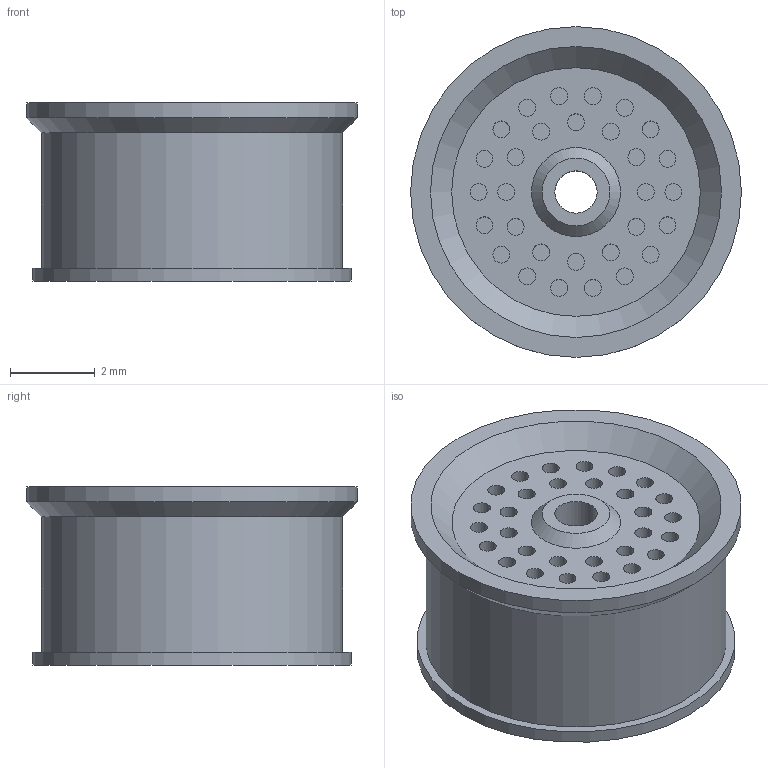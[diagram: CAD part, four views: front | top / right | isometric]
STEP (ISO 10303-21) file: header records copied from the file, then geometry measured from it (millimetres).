
FILE_DESCRIPTION(('Open CASCADE Model'),'2;1');
FILE_NAME('Open CASCADE Shape Model','2026-10-09T16:33:00',('Author'),( 'Open CASCADE'),'Open CASCADE STEP processor 8.0','build123d', 'Unknown');
FILE_SCHEMA(('AUTOMOTIVE_DESIGN { 1 0 10303 214 1 1 1 1 }'));
Length unit declared in the file: millimetre
Products named in the file (1): COMPOUND
Bounding box: 7.8 x 7.8 x 4.2 mm (x, y, z)
Volume: 149.1 mm3; surface area: 256 mm2
Topology: 1 solids, 1 shells, 72 faces, 109 edges, 72 vertices
Faces by surface type: plane 35, cylinder 34, cone 3
Full cylindrical faces by diameter (mm): 0.4 x30, 1 x1, 7.1 x1, 7.5 x1, 7.8 x1
Entity records: 3149 total; most frequent: CARTESIAN_POINT 653, DIRECTION 514, ORIENTED_EDGE 218, PCURVE 218, DEFINITIONAL_REPRESENTATION 218, LINE 184, VECTOR 184, AXIS2_PLACEMENT_3D 145
